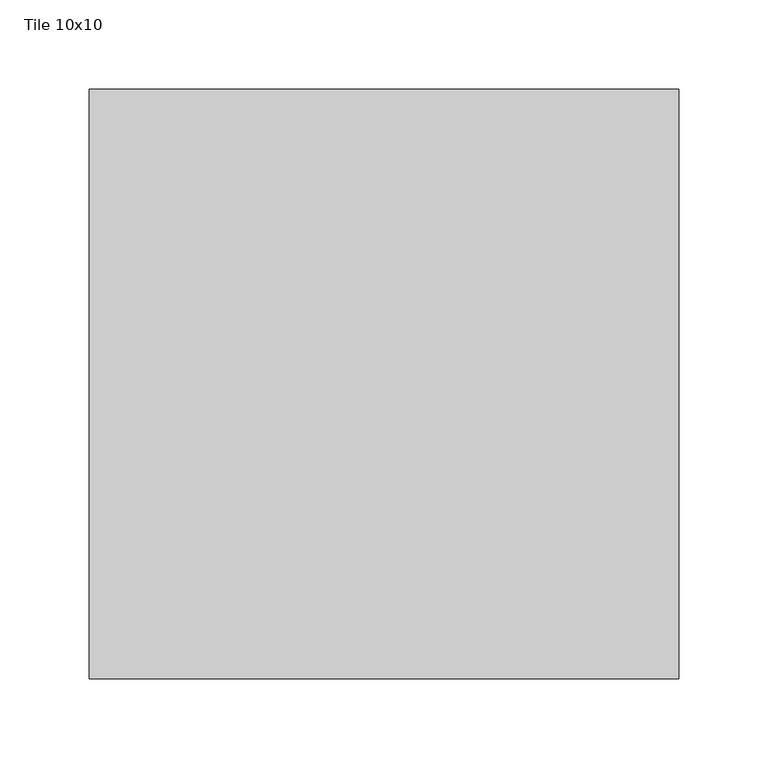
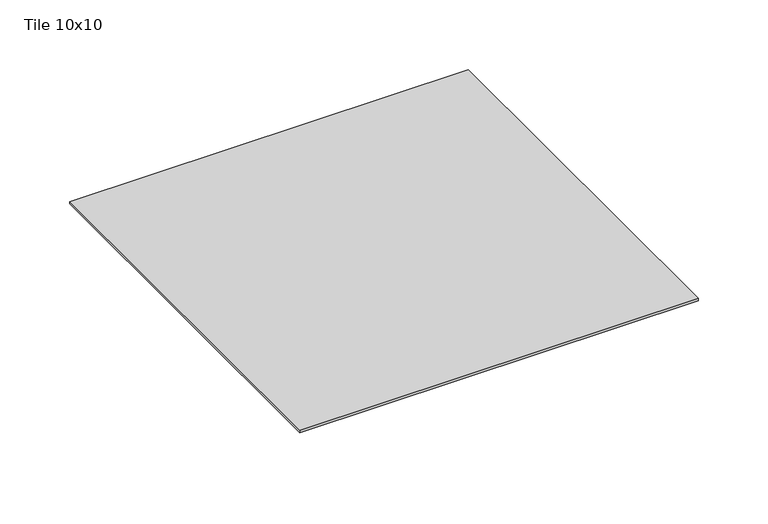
"""IFC4 building model written with IfcOpenShell, lengths in millimetres: sanitary terminal geometry, Z_DO_NOT_USE_NLRS_PF_52_UN_Aqua Jewels Quattro Complete_Easydrain : Tile 10x10."""

from ifc_helpers import new_model, si_unit, frame, origin, place, context, project, spatial, polyline, outline, extrude, source, transform, mapped, element, save


def tile_10x10_495e2d9a(model_context):
    return source(origin(), model_context, "Body", "SweptSolid", [
        extrude(outline(polyline([(165.0, 165.0), (165.0, -165.0), (-165.0, -165.0), (-165.0, 165.0), (165.0, 165.0)])), frame((0.0, 0.0, -6.0), z_axis=(0.0, 0.0, 1.0), x_axis=(1.0, 0.0, 0.0)), (0.0, 0.0, 1.0), 2.0),
        extrude(outline(polyline([(50.0, 50.0), (50.0, -50.0), (-50.0, -50.0), (-50.0, 50.0), (50.0, 50.0)])), frame((0.0, 0.0, -25.0), z_axis=(0.0, 0.0, 1.0), x_axis=(1.0, 0.0, 0.0)), (0.0, 0.0, 1.0), 20.0),
        extrude(outline(polyline([(80.0, 80.0), (80.0, -80.0), (-80.0, -80.0), (-80.0, 80.0), (80.0, 80.0)])), frame((0.0, 0.0, -7.0), z_axis=(0.0, 0.0, 1.0), x_axis=(1.0, 0.0, 0.0)), (0.0, 0.0, 1.0), 2.0),
    ])


if __name__ == "__main__":
    model = new_model("IFC4")
    model_context = context("Model", 3, world=origin())
    ifc_project = project(units=[si_unit("LENGTHUNIT", "METRE", prefix="MILLI")], contexts=[model_context])
    site = spatial("IfcSite", under=ifc_project)
    building = spatial("IfcBuilding", under=site)
    placement = place(None, origin())
    tile_10x10_shape = tile_10x10_495e2d9a(model_context)
    element("IfcSanitaryTerminal", 1, ObjectType="Z_DO_NOT_USE_NLRS_PF_52_UN_Aqua Jewels Quattro Complete_Easydrain : Tile 10x10", at=placement, inside=building, context=model_context, shape_type="MappedRepresentation", body=[
        mapped(tile_10x10_shape, transform((0.0, 0.0, 0.0), x_axis=(1.0, 0.0, 0.0), y_axis=(0.0, 1.0, 0.0), z_axis=(0.0, 0.0, 1.0))),
    ])
    save(model, "model.ifc")
